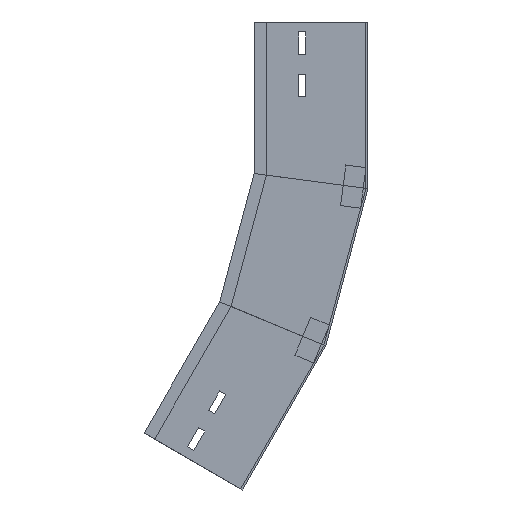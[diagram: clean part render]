
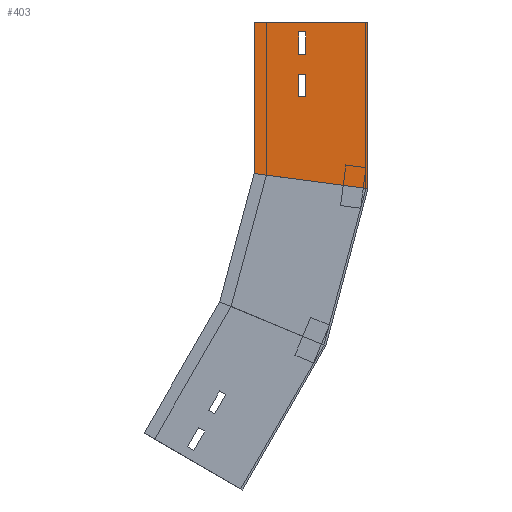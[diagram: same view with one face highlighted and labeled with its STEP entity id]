
A CAD part, left-side view. The second image highlights one B-rep face of the part: STEP entity #403.
In plain terms, the highlighted planar face has unit normal (-1, 0, 0) as drawn and (1, 0, 0) by its records, which use the part's own axes.
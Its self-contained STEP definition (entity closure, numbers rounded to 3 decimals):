
#1 = EDGE_CURVE ( 'NONE', #347, #1072, #1372, .T. ) ;
#64 = EDGE_LOOP ( 'NONE', ( #1341, #856, #987, #1462 ) ) ;
#68 = LINE ( 'NONE', #532, #300 ) ;
#74 = EDGE_CURVE ( 'NONE', #1311, #785, #928, .T. ) ;
#83 = DIRECTION ( 'NONE',  ( 0., 0.5, -0.866 ) ) ;
#113 = DIRECTION ( 'NONE',  ( -1., 0., 0. ) ) ;
#172 = DIRECTION ( 'NONE',  ( 0., 0.866, 0.5 ) ) ;
#192 = VECTOR ( 'NONE', #1154, 1000. ) ;
#210 = DIRECTION ( 'NONE',  ( 0., 0.5, -0.866 ) ) ;
#219 = LINE ( 'NONE', #916, #573 ) ;
#228 = FACE_BOUND ( 'NONE', #678, .T. ) ;
#243 = CARTESIAN_POINT ( 'NONE',  ( 0., 151.452, -387.211 ) ) ;
#267 = CARTESIAN_POINT ( 'NONE',  ( 0., 178.349, -419.798 ) ) ;
#285 = EDGE_CURVE ( 'NONE', #655, #699, #1141, .T. ) ;
#300 = VECTOR ( 'NONE', #83, 1000. ) ;
#320 = CARTESIAN_POINT ( 'NONE',  ( 0., 172.287, -423.298 ) ) ;
#345 = EDGE_CURVE ( 'NONE', #1072, #368, #68, .T. ) ;
#347 = VERTEX_POINT ( 'NONE', #1000 ) ;
#352 = VECTOR ( 'NONE', #502, 1000. ) ;
#367 = DIRECTION ( 'NONE',  ( 0., 0.866, 0.5 ) ) ;
#368 = VERTEX_POINT ( 'NONE', #243 ) ;
#389 = VECTOR ( 'NONE', #367, 1000. ) ;
#400 = VERTEX_POINT ( 'NONE', #919 ) ;
#402 = LINE ( 'NONE', #320, #1042 ) ;
#403 = ADVANCED_FACE ( 'NONE', ( #228, #1157, #1483 ), #701, .F. ) ;
#412 = CARTESIAN_POINT ( 'NONE',  ( 0., 123.944, -462.565 ) ) ;
#423 = ORIENTED_EDGE ( 'NONE', *, *, #999, .F. ) ;
#428 = CARTESIAN_POINT ( 'NONE',  ( 0., 221.372, -406.315 ) ) ;
#461 = DIRECTION ( 'NONE',  ( 0., 0., 1. ) ) ;
#463 = VECTOR ( 'NONE', #625, 1000. ) ;
#464 = ORIENTED_EDGE ( 'NONE', *, *, #345, .F. ) ;
#484 = DIRECTION ( 'NONE',  ( 0., -0.866, -0.5 ) ) ;
#501 = VECTOR ( 'NONE', #1122, 1000. ) ;
#502 = DIRECTION ( 'NONE',  ( 0., 0.5, -0.866 ) ) ;
#521 = LINE ( 'NONE', #988, #548 ) ;
#532 = CARTESIAN_POINT ( 'NONE',  ( 0., 151.452, -387.211 ) ) ;
#538 = AXIS2_PLACEMENT_3D ( 'NONE', #1358, #113, #461 ) ;
#545 = VECTOR ( 'NONE', #172, 1000. ) ;
#548 = VECTOR ( 'NONE', #1036, 1000. ) ;
#552 = ORIENTED_EDGE ( 'NONE', *, *, #862, .F. ) ;
#573 = VECTOR ( 'NONE', #908, 1000. ) ;
#603 = CARTESIAN_POINT ( 'NONE',  ( 0., 157.514, -383.711 ) ) ;
#624 = CARTESIAN_POINT ( 'NONE',  ( 0., 139.072, -263.767 ) ) ;
#625 = DIRECTION ( 'NONE',  ( 0., -0.5, 0.866 ) ) ;
#641 = CARTESIAN_POINT ( 'NONE',  ( 0., 146.477, -276.594 ) ) ;
#655 = VERTEX_POINT ( 'NONE', #641 ) ;
#678 = EDGE_LOOP ( 'NONE', ( #552, #1146, #1054, #976 ) ) ;
#699 = VERTEX_POINT ( 'NONE', #886 ) ;
#701 = PLANE ( 'NONE',  #538 ) ;
#713 = ORIENTED_EDGE ( 'NONE', *, *, #1322, .F. ) ;
#726 = VERTEX_POINT ( 'NONE', #428 ) ;
#762 = EDGE_CURVE ( 'NONE', #785, #400, #402, .T. ) ;
#784 = EDGE_CURVE ( 'NONE', #699, #1472, #1143, .T. ) ;
#785 = VERTEX_POINT ( 'NONE', #925 ) ;
#818 = CARTESIAN_POINT ( 'NONE',  ( 0., 41.644, -320.017 ) ) ;
#822 = CARTESIAN_POINT ( 'NONE',  ( 0., 167.349, -400.745 ) ) ;
#836 = LINE ( 'NONE', #624, #352 ) ;
#856 = ORIENTED_EDGE ( 'NONE', *, *, #784, .T. ) ;
#862 = EDGE_CURVE ( 'NONE', #920, #1311, #219, .T. ) ;
#886 = CARTESIAN_POINT ( 'NONE',  ( 0., 41.644, -320.017 ) ) ;
#908 = DIRECTION ( 'NONE',  ( 0., -0.5, 0.866 ) ) ;
#915 = CARTESIAN_POINT ( 'NONE',  ( 0., 167.349, -400.745 ) ) ;
#916 = CARTESIAN_POINT ( 'NONE',  ( 0., 178.349, -419.798 ) ) ;
#919 = CARTESIAN_POINT ( 'NONE',  ( 0., 172.287, -423.298 ) ) ;
#920 = VERTEX_POINT ( 'NONE', #267 ) ;
#925 = CARTESIAN_POINT ( 'NONE',  ( 0., 161.287, -404.245 ) ) ;
#928 = LINE ( 'NONE', #822, #1002 ) ;
#976 = ORIENTED_EDGE ( 'NONE', *, *, #74, .F. ) ;
#985 = DIRECTION ( 'NONE',  ( 0., 0.5, -0.866 ) ) ;
#987 = ORIENTED_EDGE ( 'NONE', *, *, #1218, .T. ) ;
#988 = CARTESIAN_POINT ( 'NONE',  ( 0., 123.944, -462.565 ) ) ;
#999 = EDGE_CURVE ( 'NONE', #1400, #347, #1190, .T. ) ;
#1000 = CARTESIAN_POINT ( 'NONE',  ( 0., 146.514, -364.658 ) ) ;
#1002 = VECTOR ( 'NONE', #484, 1000. ) ;
#1030 = EDGE_CURVE ( 'NONE', #400, #920, #1299, .T. ) ;
#1036 = DIRECTION ( 'NONE',  ( 0., 0.866, 0.5 ) ) ;
#1042 = VECTOR ( 'NONE', #985, 1000. ) ;
#1054 = ORIENTED_EDGE ( 'NONE', *, *, #762, .F. ) ;
#1058 = VECTOR ( 'NONE', #210, 1000. ) ;
#1070 = CARTESIAN_POINT ( 'NONE',  ( 0., 140.452, -368.158 ) ) ;
#1072 = VERTEX_POINT ( 'NONE', #1070 ) ;
#1084 = CARTESIAN_POINT ( 'NONE',  ( 0., 157.514, -383.711 ) ) ;
#1110 = CARTESIAN_POINT ( 'NONE',  ( 0., 61.047, -311.98 ) ) ;
#1122 = DIRECTION ( 'NONE',  ( 0., -0.924, -0.383 ) ) ;
#1141 = LINE ( 'NONE', #1110, #501 ) ;
#1143 = LINE ( 'NONE', #818, #1058 ) ;
#1146 = ORIENTED_EDGE ( 'NONE', *, *, #1030, .F. ) ;
#1154 = DIRECTION ( 'NONE',  ( 0., -0.866, -0.5 ) ) ;
#1157 = FACE_BOUND ( 'NONE', #1255, .T. ) ;
#1178 = LINE ( 'NONE', #1084, #545 ) ;
#1190 = LINE ( 'NONE', #603, #463 ) ;
#1218 = EDGE_CURVE ( 'NONE', #1472, #726, #521, .T. ) ;
#1248 = ORIENTED_EDGE ( 'NONE', *, *, #1, .F. ) ;
#1255 = EDGE_LOOP ( 'NONE', ( #423, #713, #464, #1248 ) ) ;
#1293 = CARTESIAN_POINT ( 'NONE',  ( 0., 178.349, -419.798 ) ) ;
#1299 = LINE ( 'NONE', #1293, #389 ) ;
#1311 = VERTEX_POINT ( 'NONE', #915 ) ;
#1317 = EDGE_CURVE ( 'NONE', #655, #726, #836, .T. ) ;
#1322 = EDGE_CURVE ( 'NONE', #368, #1400, #1178, .T. ) ;
#1341 = ORIENTED_EDGE ( 'NONE', *, *, #285, .T. ) ;
#1358 = CARTESIAN_POINT ( 'NONE',  ( 0., 41.644, -320.017 ) ) ;
#1372 = LINE ( 'NONE', #1406, #192 ) ;
#1400 = VERTEX_POINT ( 'NONE', #1407 ) ;
#1406 = CARTESIAN_POINT ( 'NONE',  ( 0., 146.514, -364.658 ) ) ;
#1407 = CARTESIAN_POINT ( 'NONE',  ( 0., 157.514, -383.711 ) ) ;
#1462 = ORIENTED_EDGE ( 'NONE', *, *, #1317, .F. ) ;
#1472 = VERTEX_POINT ( 'NONE', #412 ) ;
#1483 = FACE_OUTER_BOUND ( 'NONE', #64, .T. ) ;
